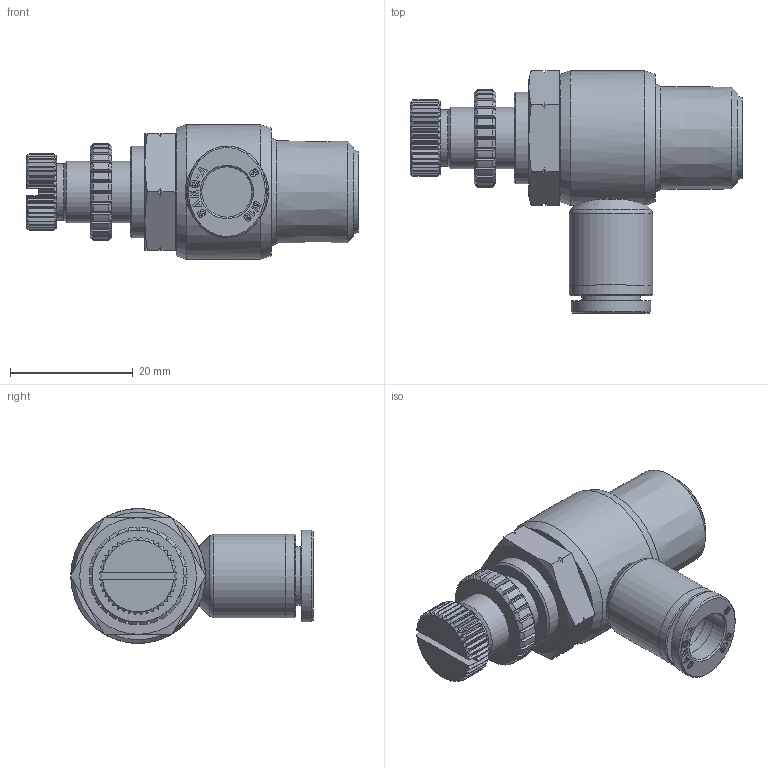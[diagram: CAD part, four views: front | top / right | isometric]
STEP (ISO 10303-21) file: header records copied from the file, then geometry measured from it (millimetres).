
FILE_DESCRIPTION((''),'2;1');
FILE_NAME('C:\Users\user0117\Desktop\김진일\홈페이지\5_16\Internet\G-FITTING INCH (STEP)\GNSE 5_16-N03U.stp','2020-03-02T16:35:45',('user0117'),(''),'Autodesk Inventor 2013','Autodesk Inventor 2013','');
FILE_SCHEMA(('AUTOMOTIVE_DESIGN { 1 0 10303 214 1 1 1 1 }'));
Length unit declared in the file: millimetre
Products named in the file (8): GNSE 5_16-N03U; NSE BODY N03(BRASS); GNSE BODY 0803(PLASTIC); LOCK NUT 03; NEEDLE-03-O(BRASS); G-COLLAR 5-16L; COLLAR G08L; SLEEVE G08
Assembly tree (7 placements, depth 3):
  GNSE 5_16-N03U
    NSE BODY N03(BRASS)
    GNSE BODY 0803(PLASTIC)
    LOCK NUT 03
    NEEDLE-03-O(BRASS)
    G-COLLAR 5-16L
      COLLAR G08L
      SLEEVE G08
Bounding box: 54.2 x 39.6 x 22 mm (x, y, z)
Volume: 11514.8 mm3; surface area: 9597.1 mm2
Topology: 6 solids, 6 shells, 778 faces, 2146 edges, 1404 vertices
Faces by surface type: plane 528, cylinder 134, cone 95, bspline 20, torus 1
Full cylindrical faces by diameter (mm): 7 x1, 8.2 x3, 9.2 x1, 9.5 x1, 9.6 x1, 10 x2, 10.6 x1, 12.2 x1, 13.6 x2, 15 x1, 17.7 x1, 18.8 x2, 22 x1
Entity records: 25281 total; most frequent: CARTESIAN_POINT 6624, ORIENTED_EDGE 4200, DIRECTION 3451, EDGE_CURVE 2100, VERTEX_POINT 1397, VECTOR 1281, LINE 1281, AXIS2_PLACEMENT_3D 1085
